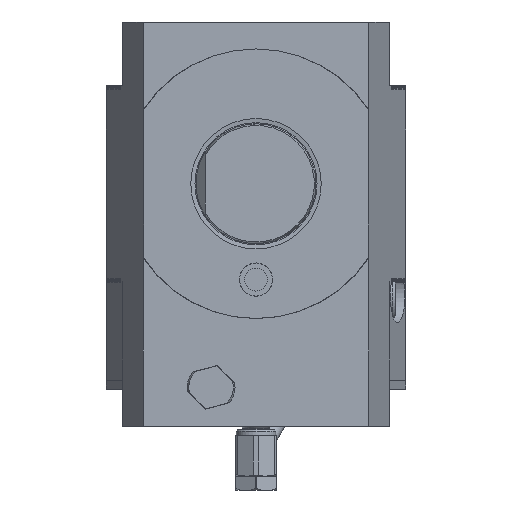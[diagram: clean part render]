
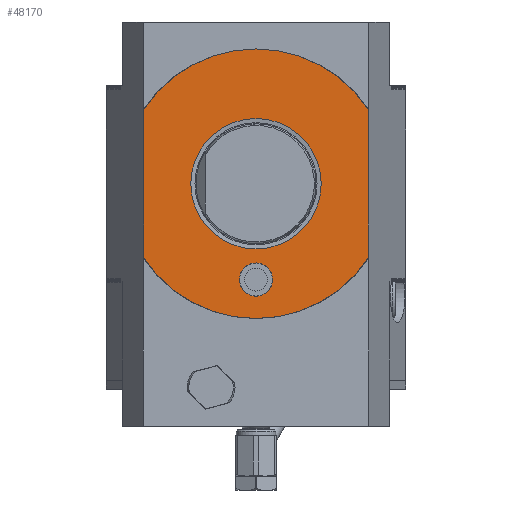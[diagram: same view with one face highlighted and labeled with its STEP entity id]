
A CAD part, left-side view. The second image highlights one B-rep face of the part: STEP entity #48170.
In plain terms, the highlighted planar face has unit normal (-1, 0, 0) as drawn and (0, 1, 0) by its records, which use the part's own axes.
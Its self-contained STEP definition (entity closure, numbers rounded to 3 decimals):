
#929=VECTOR('',#34786,1.);
#930=VECTOR('',#34787,1.);
#2124=LINE('',#42608,#929);
#2125=LINE('',#42609,#930);
#24853=ORIENTED_EDGE('',*,*,#29275,.F.);
#24854=ORIENTED_EDGE('',*,*,#29276,.F.);
#24855=ORIENTED_EDGE('',*,*,#29272,.F.);
#24856=ORIENTED_EDGE('',*,*,#29277,.T.);
#24857=ORIENTED_EDGE('',*,*,#29278,.F.);
#24858=ORIENTED_EDGE('',*,*,#29279,.F.);
#26705=CIRCLE('',#46634,45.);
#26706=CIRCLE('',#46638,45.);
#26707=CIRCLE('',#46639,21.765);
#26708=CIRCLE('',#46640,5.55);
#27614=VERTEX_POINT('',#42599);
#27615=VERTEX_POINT('',#42600);
#27616=VERTEX_POINT('',#42605);
#27617=VERTEX_POINT('',#42606);
#27618=VERTEX_POINT('',#42610);
#27619=VERTEX_POINT('',#42612);
#29272=EDGE_CURVE('',#27614,#27615,#26705,.T.);
#29275=EDGE_CURVE('',#27616,#27617,#26706,.T.);
#29276=EDGE_CURVE('',#27615,#27616,#2124,.T.);
#29277=EDGE_CURVE('',#27614,#27617,#2125,.T.);
#29278=EDGE_CURVE('',#27618,#27618,#26707,.T.);
#29279=EDGE_CURVE('',#27619,#27619,#26708,.T.);
#30758=EDGE_LOOP('',(#24853,#24854,#24855,#24856));
#30759=EDGE_LOOP('',(#24857));
#30760=EDGE_LOOP('',(#24858));
#31763=FACE_BOUND('',#30758,.T.);
#31764=FACE_BOUND('',#30759,.T.);
#31765=FACE_BOUND('',#30760,.T.);
#34776=DIRECTION('',(0.,-1.,0.));
#34777=DIRECTION('',(0.,0.,45.));
#34782=DIRECTION('',(0.,1.,0.));
#34783=DIRECTION('',(1.,0.,0.));
#34784=DIRECTION('',(0.,-1.,0.));
#34785=DIRECTION('',(0.,0.,45.));
#34786=DIRECTION('',(49.749,0.,0.));
#34787=DIRECTION('',(49.749,0.,0.));
#34788=DIRECTION('',(0.,1.,0.));
#34789=DIRECTION('',(-21.765,0.,0.));
#34790=DIRECTION('',(0.,1.,0.));
#34791=DIRECTION('',(-5.55,0.,0.));
#42599=CARTESIAN_POINT('',(-24.875,137.5,37.5));
#42600=CARTESIAN_POINT('',(-24.875,137.5,-37.5));
#42601=CARTESIAN_POINT('',(0.,137.5,0.));
#42604=CARTESIAN_POINT('',(24.875,137.5,-37.5));
#42605=CARTESIAN_POINT('',(24.875,137.5,-37.5));
#42606=CARTESIAN_POINT('',(24.875,137.5,37.5));
#42607=CARTESIAN_POINT('',(0.,137.5,0.));
#42608=CARTESIAN_POINT('',(-24.875,137.5,-37.5));
#42609=CARTESIAN_POINT('',(-24.875,137.5,37.5));
#42610=CARTESIAN_POINT('',(-21.765,137.5,0.));
#42611=CARTESIAN_POINT('',(0.,137.5,0.));
#42612=CARTESIAN_POINT('',(-37.55,137.5,0.));
#42613=CARTESIAN_POINT('',(-32.,137.5,0.));
#46634=AXIS2_PLACEMENT_3D('',#42601,#34776,#34777);
#46637=AXIS2_PLACEMENT_3D('',#42604,#34782,#34783);
#46638=AXIS2_PLACEMENT_3D('',#42607,#34784,#34785);
#46639=AXIS2_PLACEMENT_3D('',#42611,#34788,#34789);
#46640=AXIS2_PLACEMENT_3D('',#42613,#34790,#34791);
#47447=PLANE('',#46637);
#48170=ADVANCED_FACE('',(#31763,#31764,#31765),#47447,.T.);
